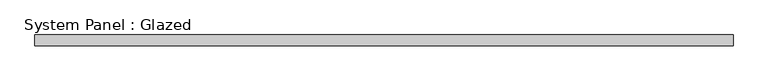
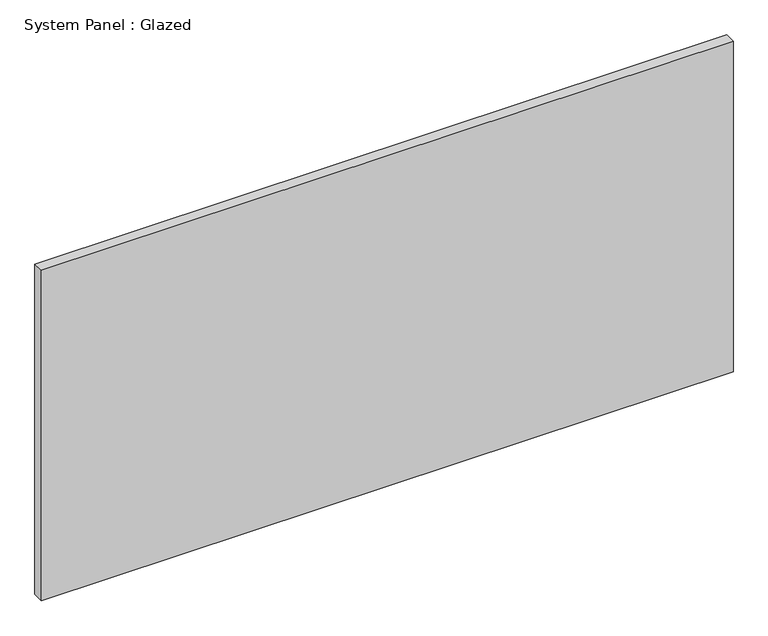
"""IFC4 building model written with IfcOpenShell, lengths in millimetres: plate geometry, System Panel : Glazed."""

from ifc_helpers import new_model, si_unit, origin, origin_with_axes, place, context, project, spatial, polyline, outline, extrude, source, transform, mapped, element, save


def system_panel_glazed_be437bdd(model_context):
    return source(origin(), model_context, "Body", "SweptSolid", [
        extrude(outline(polyline([(806.8423679, 19.05), (-806.8423679, 19.05), (-806.8423679, 44.45), (806.8423679, 44.45), (806.8423679, 19.05)])), origin_with_axes(), (0.0, 0.0, 1.0), 814.714222),
    ])


if __name__ == "__main__":
    model = new_model("IFC4")
    model_context = context("Model", 3, world=origin())
    ifc_project = project(units=[si_unit("LENGTHUNIT", "METRE", prefix="MILLI")], contexts=[model_context])
    site = spatial("IfcSite", under=ifc_project)
    building = spatial("IfcBuilding", under=site)
    placement = place(None, origin())
    system_panel_glazed_shape = system_panel_glazed_be437bdd(model_context)
    element("IfcPlate", 1, ObjectType="System Panel : Glazed", at=placement, inside=building, context=model_context, shape_type="MappedRepresentation", body=[
        mapped(system_panel_glazed_shape, transform((0.0, 0.0, 0.0), x_axis=(1.0, 0.0, 0.0), y_axis=(0.0, 1.0, 0.0), z_axis=(0.0, 0.0, 1.0))),
    ])
    save(model, "model.ifc")
